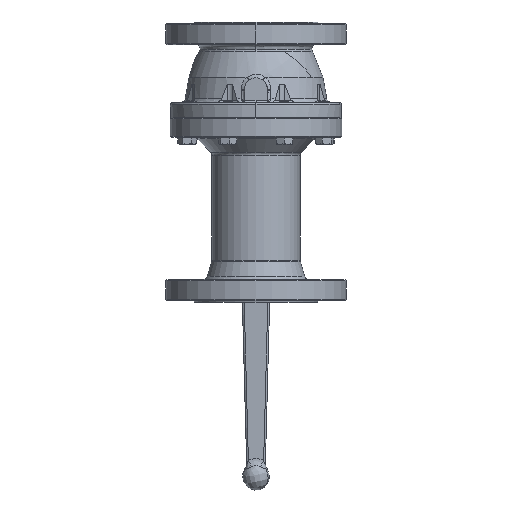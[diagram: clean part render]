
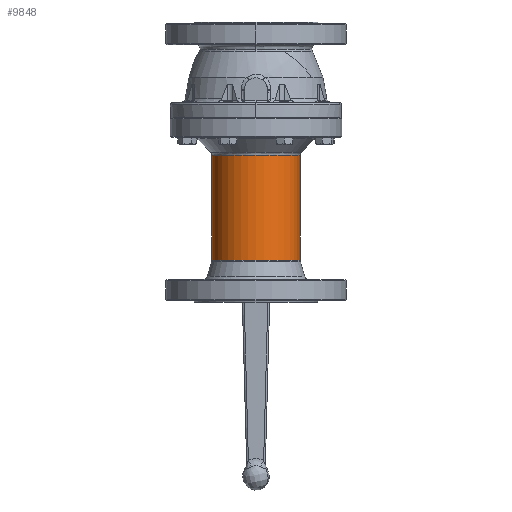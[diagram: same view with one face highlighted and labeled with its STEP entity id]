
A CAD part, front view. The second image highlights one B-rep face of the part: STEP entity #9848.
In plain terms, the highlighted cylindrical face has radius 49 mm (diameter 98 mm), a partial arc.
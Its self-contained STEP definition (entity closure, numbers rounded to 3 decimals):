
#163 = DIRECTION ( 'NONE',  ( 0., 1., 0. ) ) ;
#3053 = CARTESIAN_POINT ( 'NONE',  ( 0., 58.55, -49. ) ) ;
#3278 = CIRCLE ( 'NONE', #16767, 49. ) ;
#6116 = VERTEX_POINT ( 'NONE', #34182 ) ;
#6181 = LINE ( 'NONE', #37352, #23153 ) ;
#8275 = ORIENTED_EDGE ( 'NONE', *, *, #29229, .T. ) ;
#9848 = ADVANCED_FACE ( 'NONE', ( #40387 ), #23774, .T. ) ;
#11528 = EDGE_CURVE ( 'NONE', #29223, #6116, #3278, .T. ) ;
#12239 = DIRECTION ( 'NONE',  ( 0., 1., 0. ) ) ;
#12264 = EDGE_CURVE ( 'NONE', #20894, #20861, #13245, .T. ) ;
#12683 = CARTESIAN_POINT ( 'NONE',  ( 0., 58.55, 49. ) ) ;
#12763 = EDGE_LOOP ( 'NONE', ( #33119, #34436, #8275, #40073 ) ) ;
#13245 = CIRCLE ( 'NONE', #27225, 49. ) ;
#14361 = CARTESIAN_POINT ( 'NONE',  ( 0., -57.679, -49. ) ) ;
#16767 = AXIS2_PLACEMENT_3D ( 'NONE', #31205, #12239, #34323 ) ;
#17564 = CARTESIAN_POINT ( 'NONE',  ( 0., 58.55, 0. ) ) ;
#18537 = CARTESIAN_POINT ( 'NONE',  ( 0., -0.25, -49. ) ) ;
#18539 = DIRECTION ( 'NONE',  ( 0., 1., 0. ) ) ;
#20778 = DIRECTION ( 'NONE',  ( 0., 0., 1. ) ) ;
#20861 = VERTEX_POINT ( 'NONE', #12683 ) ;
#20894 = VERTEX_POINT ( 'NONE', #3053 ) ;
#22162 = EDGE_CURVE ( 'NONE', #29223, #20894, #40053, .T. ) ;
#22420 = CARTESIAN_POINT ( 'NONE',  ( 0., -0.25, 0. ) ) ;
#23153 = VECTOR ( 'NONE', #18539, 1000. ) ;
#23774 = CYLINDRICAL_SURFACE ( 'NONE', #26334, 49. ) ;
#25610 = DIRECTION ( 'NONE',  ( 0., 0., 1. ) ) ;
#26334 = AXIS2_PLACEMENT_3D ( 'NONE', #22420, #163, #25610 ) ;
#27225 = AXIS2_PLACEMENT_3D ( 'NONE', #17564, #39551, #20778 ) ;
#29223 = VERTEX_POINT ( 'NONE', #14361 ) ;
#29229 = EDGE_CURVE ( 'NONE', #6116, #20861, #6181, .T. ) ;
#31205 = CARTESIAN_POINT ( 'NONE',  ( 0., -57.679, 0. ) ) ;
#31797 = VECTOR ( 'NONE', #40479, 1000. ) ;
#33119 = ORIENTED_EDGE ( 'NONE', *, *, #22162, .F. ) ;
#34182 = CARTESIAN_POINT ( 'NONE',  ( 0., -57.679, 49. ) ) ;
#34323 = DIRECTION ( 'NONE',  ( 0., 0., 1. ) ) ;
#34436 = ORIENTED_EDGE ( 'NONE', *, *, #11528, .T. ) ;
#37352 = CARTESIAN_POINT ( 'NONE',  ( 0., -0.25, 49. ) ) ;
#39551 = DIRECTION ( 'NONE',  ( 0., 1., 0. ) ) ;
#40053 = LINE ( 'NONE', #18537, #31797 ) ;
#40073 = ORIENTED_EDGE ( 'NONE', *, *, #12264, .F. ) ;
#40387 = FACE_OUTER_BOUND ( 'NONE', #12763, .T. ) ;
#40479 = DIRECTION ( 'NONE',  ( 0., 1., 0. ) ) ;
